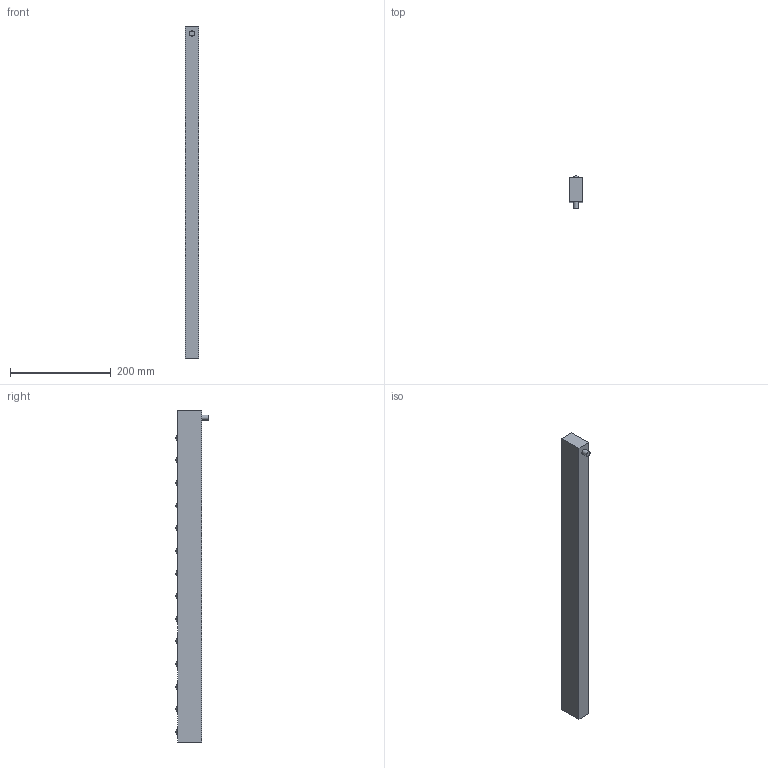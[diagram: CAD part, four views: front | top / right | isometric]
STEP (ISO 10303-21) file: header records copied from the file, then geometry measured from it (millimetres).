
FILE_DESCRIPTION(/* description */ (''),/* implementation_level */ '2;1');
FILE_NAME(/* name */ 'V:\Shrinkwrap\EMB\EMB - SHRINKWRAP\EMP28\EMB28-14_Shrinkwrap_1.stp',/* time_stamp */ '2022-08-12T11:27:13+02:00',/* author */ ('cw'),/* organization */ (''),/* preprocessor_version */ 'ST-DEVELOPER v17',/* originating_system */ 'Autodesk Inventor 2019',/* authorisation */ '');
FILE_SCHEMA (('AUTOMOTIVE_DESIGN { 1 0 10303 214 3 1 1 }'));
Length unit declared in the file: millimetre
Products named in the file (1): EMB28-14_Shrinkwrap_1
Bounding box: 27.8 x 64.05 x 660 mm (x, y, z)
Volume: 876918.8 mm3; surface area: 107005.2 mm2
Topology: 1 solids, 1 shells, 56 faces, 102 edges, 82 vertices
Faces by surface type: plane 24, cylinder 18, sphere 14
Full cylindrical faces by diameter (mm): 10 x1, 11 x1, 16 x1, 18 x1, 21.5 x14
Entity records: 1587 total; most frequent: DIRECTION 284, CARTESIAN_POINT 239, ORIENTED_EDGE 200, AXIS2_PLACEMENT_3D 127, EDGE_CURVE 100, EDGE_LOOP 88, VERTEX_POINT 78, CIRCLE 70
